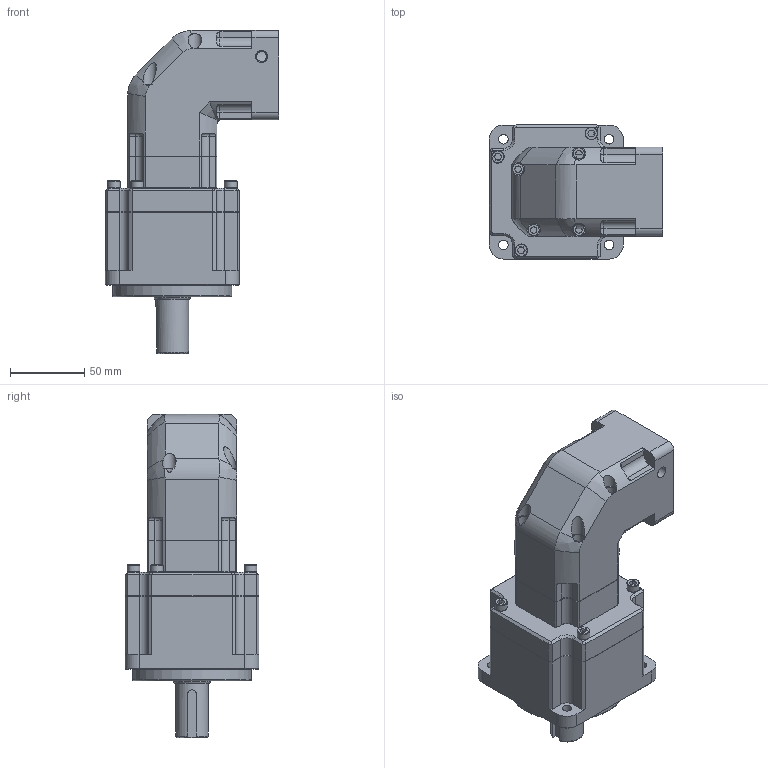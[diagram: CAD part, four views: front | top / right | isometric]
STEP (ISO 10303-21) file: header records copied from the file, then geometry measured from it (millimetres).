
FILE_DESCRIPTION((''),'2;1');
FILE_NAME('C:\Users\nagyu\Desktop\유성감속기-진행자료\도면\3D\2. 홈페이지용 3D 도면 (ipt)\외부도\SPL090\SPL(H)090D (1STAGE-KEY).stp','2012-07-23T11:06:17',('nagyu'),(''),'Autodesk Inventor 2012','Autodesk Inventor 2012','');
FILE_SCHEMA(('AUTOMOTIVE_DESIGN { 1 0 10303 214 1 1 1 1 }'));
Length unit declared in the file: millimetre
Products named in the file (2): SPL(H)090D (1STAGE-KEY).iam (대체 세부 수준1); SPL(H)090D (1STAGE-KEY)_대체_1
Assembly tree (1 placements, depth 2):
  SPL(H)090D (1STAGE-KEY).iam (대체 세부 수준1)
    SPL(H)090D (1STAGE-KEY)_대체_1
Bounding box: 116.5 x 90 x 217.1 mm (x, y, z)
Volume: 894951.3 mm3; surface area: 103942.6 mm2
Topology: 1 solids, 7 shells, 497 faces, 1195 edges, 740 vertices
Faces by surface type: plane 228, cylinder 168, cone 78, bspline 12, torus 11
Full cylindrical faces by diameter (mm): 4.134 x4, 4.3 x4, 5.5 x4, 6.5 x4, 7.5 x4, 8 x2, 8.5 x5, 10 x1, 12 x1, 14 x1, 20 x1, 22 x1, 24.5 x1, 29 x1, 36 x1, 43 x1, 47 x1, 50 x2, 51 x1, 52 x1, 54 x1, 80 x1
Entity records: 20877 total; most frequent: CARTESIAN_POINT 9486, DIRECTION 2289, ORIENTED_EDGE 2220, EDGE_CURVE 1110, AXIS2_PLACEMENT_3D 865, VERTEX_POINT 718, EDGE_LOOP 602, VECTOR 559
